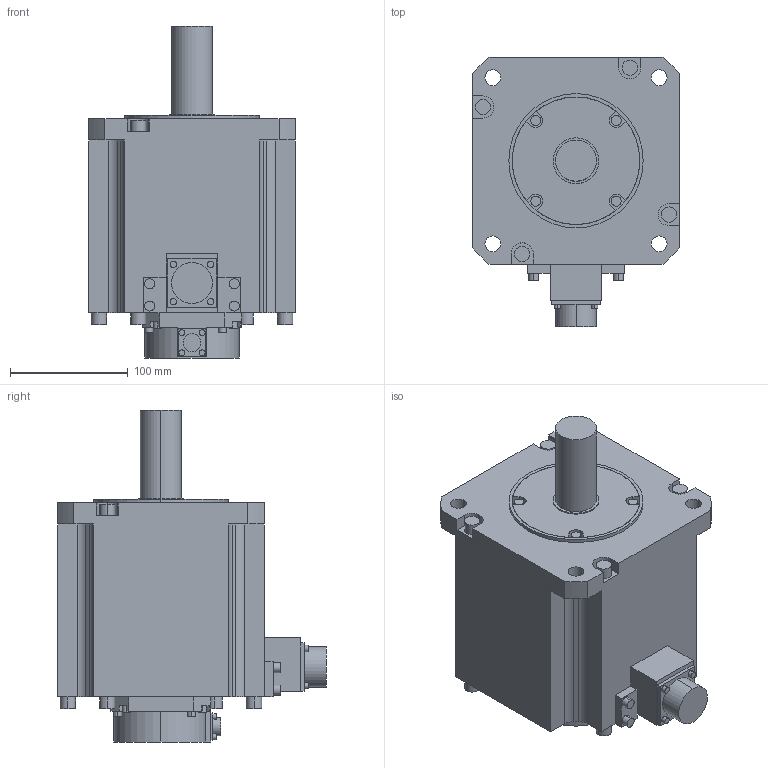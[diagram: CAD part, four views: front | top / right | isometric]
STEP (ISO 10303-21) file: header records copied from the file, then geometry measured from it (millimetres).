
FILE_DESCRIPTION (( 'STEP AP203' ), '1' );
FILE_NAME ('hf-sp502_a.step', '2009-12-04T04:14:56', ( ' ' ), ( '' ), 'SwSTEP 2.0', 'SolidWorks 2006303', '' );
FILE_SCHEMA (( 'CONFIG_CONTROL_DESIGN' ));
Length unit declared in the file: millimetre
Products named in the file (1): hf-sp502_a
Bounding box: 176 x 228.85 x 282.5 mm (x, y, z)
Volume: 4989168.6 mm3; surface area: 212932.9 mm2
Topology: 1 solids, 1 shells, 247 faces, 613 edges, 408 vertices
Faces by surface type: plane 127, cylinder 120
Entity records: 7512 total; most frequent: DIRECTION 1357, CARTESIAN_POINT 1269, ORIENTED_EDGE 1226, EDGE_CURVE 613, AXIS2_PLACEMENT_3D 496, VERTEX_POINT 408, VECTOR 365, LINE 365
